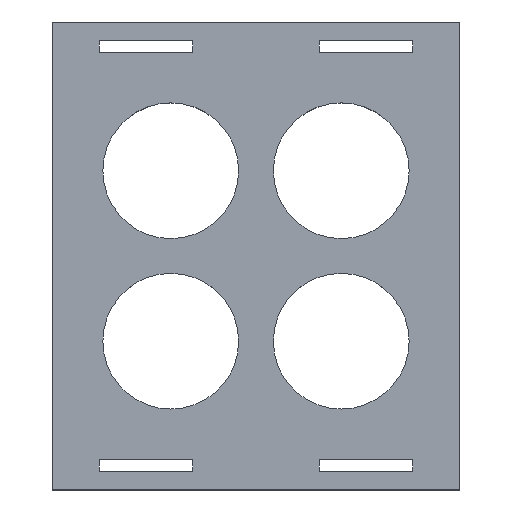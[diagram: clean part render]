
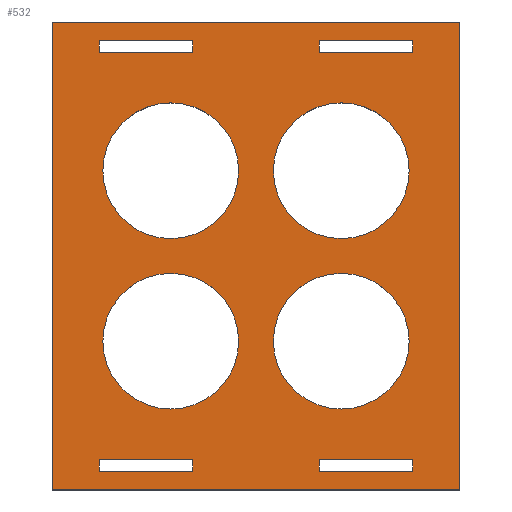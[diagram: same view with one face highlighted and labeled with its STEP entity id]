
A CAD part, top view. The second image highlights one B-rep face of the part: STEP entity #532.
In plain terms, the highlighted planar face has unit normal (0, 0, 1).
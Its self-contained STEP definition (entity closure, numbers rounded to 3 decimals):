
#15=FACE_BOUND('',#87,.T.);
#16=FACE_BOUND('',#88,.T.);
#17=FACE_BOUND('',#89,.T.);
#18=FACE_BOUND('',#90,.T.);
#19=FACE_BOUND('',#91,.T.);
#20=FACE_BOUND('',#92,.T.);
#21=FACE_BOUND('',#93,.T.);
#22=FACE_BOUND('',#94,.T.);
#34=PLANE('',#586);
#60=FACE_OUTER_BOUND('',#86,.T.);
#86=EDGE_LOOP('',(#405,#406,#407,#408));
#87=EDGE_LOOP('',(#409,#410,#411,#412));
#88=EDGE_LOOP('',(#413,#414,#415,#416));
#89=EDGE_LOOP('',(#417,#418,#419,#420));
#90=EDGE_LOOP('',(#421,#422,#423,#424));
#91=EDGE_LOOP('',(#425));
#92=EDGE_LOOP('',(#426));
#93=EDGE_LOOP('',(#427));
#94=EDGE_LOOP('',(#428));
#123=LINE('',#755,#187);
#129=LINE('',#776,#193);
#133=LINE('',#783,#197);
#135=LINE('',#786,#199);
#136=LINE('',#789,#200);
#137=LINE('',#791,#201);
#138=LINE('',#793,#202);
#139=LINE('',#794,#203);
#140=LINE('',#797,#204);
#141=LINE('',#799,#205);
#142=LINE('',#801,#206);
#143=LINE('',#802,#207);
#144=LINE('',#805,#208);
#145=LINE('',#807,#209);
#146=LINE('',#809,#210);
#147=LINE('',#810,#211);
#148=LINE('',#813,#212);
#149=LINE('',#815,#213);
#150=LINE('',#817,#214);
#151=LINE('',#818,#215);
#187=VECTOR('',#623,10.);
#193=VECTOR('',#643,10.);
#197=VECTOR('',#649,10.);
#199=VECTOR('',#653,10.);
#200=VECTOR('',#654,10.);
#201=VECTOR('',#655,10.);
#202=VECTOR('',#656,10.);
#203=VECTOR('',#657,10.);
#204=VECTOR('',#658,10.);
#205=VECTOR('',#659,10.);
#206=VECTOR('',#660,10.);
#207=VECTOR('',#661,10.);
#208=VECTOR('',#662,10.);
#209=VECTOR('',#663,10.);
#210=VECTOR('',#664,10.);
#211=VECTOR('',#665,10.);
#212=VECTOR('',#666,10.);
#213=VECTOR('',#667,10.);
#214=VECTOR('',#668,10.);
#215=VECTOR('',#669,10.);
#250=CIRCLE('',#573,14.5);
#252=CIRCLE('',#576,14.5);
#254=CIRCLE('',#580,14.5);
#256=CIRCLE('',#583,14.5);
#258=VERTEX_POINT('',#743);
#260=VERTEX_POINT('',#749);
#261=VERTEX_POINT('',#753);
#262=VERTEX_POINT('',#754);
#266=VERTEX_POINT('',#764);
#268=VERTEX_POINT('',#770);
#269=VERTEX_POINT('',#774);
#270=VERTEX_POINT('',#775);
#273=VERTEX_POINT('',#787);
#274=VERTEX_POINT('',#788);
#275=VERTEX_POINT('',#790);
#276=VERTEX_POINT('',#792);
#277=VERTEX_POINT('',#795);
#278=VERTEX_POINT('',#796);
#279=VERTEX_POINT('',#798);
#280=VERTEX_POINT('',#800);
#281=VERTEX_POINT('',#803);
#282=VERTEX_POINT('',#804);
#283=VERTEX_POINT('',#806);
#284=VERTEX_POINT('',#808);
#285=VERTEX_POINT('',#811);
#286=VERTEX_POINT('',#812);
#287=VERTEX_POINT('',#814);
#288=VERTEX_POINT('',#816);
#307=EDGE_CURVE('',#258,#258,#250,.T.);
#310=EDGE_CURVE('',#260,#260,#252,.T.);
#311=EDGE_CURVE('',#261,#262,#123,.T.);
#317=EDGE_CURVE('',#266,#266,#254,.T.);
#320=EDGE_CURVE('',#268,#268,#256,.T.);
#321=EDGE_CURVE('',#269,#270,#129,.T.);
#325=EDGE_CURVE('',#270,#261,#133,.T.);
#327=EDGE_CURVE('',#262,#269,#135,.T.);
#328=EDGE_CURVE('',#273,#274,#136,.T.);
#329=EDGE_CURVE('',#274,#275,#137,.T.);
#330=EDGE_CURVE('',#275,#276,#138,.T.);
#331=EDGE_CURVE('',#276,#273,#139,.T.);
#332=EDGE_CURVE('',#277,#278,#140,.T.);
#333=EDGE_CURVE('',#278,#279,#141,.T.);
#334=EDGE_CURVE('',#279,#280,#142,.T.);
#335=EDGE_CURVE('',#280,#277,#143,.T.);
#336=EDGE_CURVE('',#281,#282,#144,.T.);
#337=EDGE_CURVE('',#282,#283,#145,.T.);
#338=EDGE_CURVE('',#283,#284,#146,.T.);
#339=EDGE_CURVE('',#284,#281,#147,.T.);
#340=EDGE_CURVE('',#285,#286,#148,.T.);
#341=EDGE_CURVE('',#286,#287,#149,.T.);
#342=EDGE_CURVE('',#287,#288,#150,.T.);
#343=EDGE_CURVE('',#288,#285,#151,.T.);
#405=ORIENTED_EDGE('',*,*,#311,.T.);
#406=ORIENTED_EDGE('',*,*,#327,.T.);
#407=ORIENTED_EDGE('',*,*,#321,.T.);
#408=ORIENTED_EDGE('',*,*,#325,.T.);
#409=ORIENTED_EDGE('',*,*,#328,.T.);
#410=ORIENTED_EDGE('',*,*,#329,.T.);
#411=ORIENTED_EDGE('',*,*,#330,.T.);
#412=ORIENTED_EDGE('',*,*,#331,.T.);
#413=ORIENTED_EDGE('',*,*,#332,.T.);
#414=ORIENTED_EDGE('',*,*,#333,.T.);
#415=ORIENTED_EDGE('',*,*,#334,.T.);
#416=ORIENTED_EDGE('',*,*,#335,.T.);
#417=ORIENTED_EDGE('',*,*,#336,.T.);
#418=ORIENTED_EDGE('',*,*,#337,.T.);
#419=ORIENTED_EDGE('',*,*,#338,.T.);
#420=ORIENTED_EDGE('',*,*,#339,.T.);
#421=ORIENTED_EDGE('',*,*,#340,.T.);
#422=ORIENTED_EDGE('',*,*,#341,.T.);
#423=ORIENTED_EDGE('',*,*,#342,.T.);
#424=ORIENTED_EDGE('',*,*,#343,.T.);
#425=ORIENTED_EDGE('',*,*,#320,.T.);
#426=ORIENTED_EDGE('',*,*,#317,.T.);
#427=ORIENTED_EDGE('',*,*,#310,.T.);
#428=ORIENTED_EDGE('',*,*,#307,.T.);
#532=ADVANCED_FACE('',(#60,#15,#16,#17,#18,#19,#20,#21,#22),#34,.T.);
#573=AXIS2_PLACEMENT_3D('',#745,#612,#613);
#576=AXIS2_PLACEMENT_3D('',#751,#619,#620);
#580=AXIS2_PLACEMENT_3D('',#766,#632,#633);
#583=AXIS2_PLACEMENT_3D('',#772,#639,#640);
#586=AXIS2_PLACEMENT_3D('',#785,#651,#652);
#612=DIRECTION('center_axis',(0.,0.,-1.));
#613=DIRECTION('ref_axis',(-1.,0.,0.));
#619=DIRECTION('center_axis',(0.,0.,-1.));
#620=DIRECTION('ref_axis',(-1.,0.,0.));
#623=DIRECTION('',(0.,-1.,0.));
#632=DIRECTION('center_axis',(0.,0.,-1.));
#633=DIRECTION('ref_axis',(-1.,0.,0.));
#639=DIRECTION('center_axis',(0.,0.,-1.));
#640=DIRECTION('ref_axis',(-1.,0.,0.));
#643=DIRECTION('',(0.,1.,0.));
#649=DIRECTION('',(-1.,0.,0.));
#651=DIRECTION('center_axis',(0.,0.,1.));
#652=DIRECTION('ref_axis',(1.,0.,0.));
#653=DIRECTION('',(1.,0.,0.));
#654=DIRECTION('',(1.,0.,0.));
#655=DIRECTION('',(0.,-1.,0.));
#656=DIRECTION('',(-1.,0.,0.));
#657=DIRECTION('',(0.,1.,0.));
#658=DIRECTION('',(1.,0.,0.));
#659=DIRECTION('',(0.,-1.,0.));
#660=DIRECTION('',(-1.,0.,0.));
#661=DIRECTION('',(0.,1.,0.));
#662=DIRECTION('',(-1.,0.,0.));
#663=DIRECTION('',(0.,1.,0.));
#664=DIRECTION('',(1.,0.,0.));
#665=DIRECTION('',(0.,-1.,0.));
#666=DIRECTION('',(-1.,0.,0.));
#667=DIRECTION('',(0.,1.,0.));
#668=DIRECTION('',(1.,0.,0.));
#669=DIRECTION('',(0.,-1.,0.));
#743=CARTESIAN_POINT('',(9.786,64.214,2.5));
#745=CARTESIAN_POINT('Origin',(-4.714,64.214,2.5));
#749=CARTESIAN_POINT('',(9.786,27.786,2.5));
#751=CARTESIAN_POINT('Origin',(-4.714,27.786,2.5));
#753=CARTESIAN_POINT('',(-30.,96.,2.5));
#754=CARTESIAN_POINT('',(-30.,-4.,2.5));
#755=CARTESIAN_POINT('',(-30.,21.,2.5));
#764=CARTESIAN_POINT('',(46.214,64.214,2.5));
#766=CARTESIAN_POINT('Origin',(31.714,64.214,2.5));
#770=CARTESIAN_POINT('',(46.214,27.786,2.5));
#772=CARTESIAN_POINT('Origin',(31.714,27.786,2.5));
#774=CARTESIAN_POINT('',(57.,-4.,2.5));
#775=CARTESIAN_POINT('',(57.,96.,2.5));
#776=CARTESIAN_POINT('',(57.,71.,2.5));
#783=CARTESIAN_POINT('',(63.5,96.,2.5));
#785=CARTESIAN_POINT('Origin',(13.5,46.,2.5));
#786=CARTESIAN_POINT('',(-36.5,-4.,2.5));
#787=CARTESIAN_POINT('',(-20.,2.5,2.5));
#788=CARTESIAN_POINT('',(0.,2.5,2.5));
#789=CARTESIAN_POINT('',(6.75,2.5,2.5));
#790=CARTESIAN_POINT('',(0.,0.,2.5));
#791=CARTESIAN_POINT('',(0.,23.,2.5));
#792=CARTESIAN_POINT('',(-20.,0.,2.5));
#793=CARTESIAN_POINT('',(-3.25,0.,2.5));
#794=CARTESIAN_POINT('',(-20.,24.25,2.5));
#795=CARTESIAN_POINT('',(27.,92.,2.5));
#796=CARTESIAN_POINT('',(47.,92.,2.5));
#797=CARTESIAN_POINT('',(30.25,92.,2.5));
#798=CARTESIAN_POINT('',(47.,89.5,2.5));
#799=CARTESIAN_POINT('',(47.,67.75,2.5));
#800=CARTESIAN_POINT('',(27.,89.5,2.5));
#801=CARTESIAN_POINT('',(20.25,89.5,2.5));
#802=CARTESIAN_POINT('',(27.,69.,2.5));
#803=CARTESIAN_POINT('',(47.,0.,2.5));
#804=CARTESIAN_POINT('',(27.,0.,2.5));
#805=CARTESIAN_POINT('',(20.25,0.,2.5));
#806=CARTESIAN_POINT('',(27.,2.5,2.5));
#807=CARTESIAN_POINT('',(27.,24.25,2.5));
#808=CARTESIAN_POINT('',(47.,2.5,2.5));
#809=CARTESIAN_POINT('',(30.25,2.5,2.5));
#810=CARTESIAN_POINT('',(47.,23.,2.5));
#811=CARTESIAN_POINT('',(0.,89.5,2.5));
#812=CARTESIAN_POINT('',(-20.,89.5,2.5));
#813=CARTESIAN_POINT('',(-3.25,89.5,2.5));
#814=CARTESIAN_POINT('',(-20.,92.,2.5));
#815=CARTESIAN_POINT('',(-20.,69.,2.5));
#816=CARTESIAN_POINT('',(0.,92.,2.5));
#817=CARTESIAN_POINT('',(6.75,92.,2.5));
#818=CARTESIAN_POINT('',(0.,67.75,2.5));
